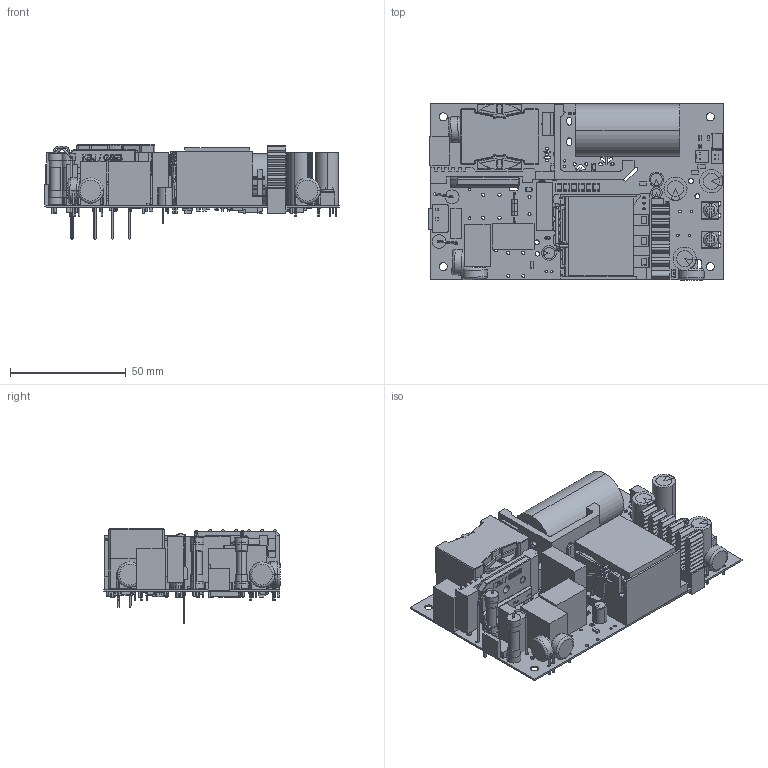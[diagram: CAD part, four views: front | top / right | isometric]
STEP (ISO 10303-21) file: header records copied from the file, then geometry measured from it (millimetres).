
FILE_DESCRIPTION(('Creo Elements/Direct Modeling STEP Export'),'2;1');
FILE_NAME('LOP-400.stp','2023-11-29T 9:32:35',(''),(''),'PTC Creo Elements/Direct Modeling STEP processor for AP214 (Solid Model)','PTC Creo Elements/Direct Modeling 19.0E 27-Jun-2016 (C) Parametric Technology GmbH','');
FILE_SCHEMA(('AUTOMOTIVE_DESIGN { 1 0 10303 214 1 1 1 1 }'));
Length unit declared in the file: millimetre
Products named in the file (538): 0_7CP___PRT_1_PRT_PRT_PR-107990.PRT; 0_7CP___PRT_1_PRT_PRT_PR-108320.ASM; 0_7CP___PRT_1_PRT_PRT_PR-106650.PRT; 0_7CP___PRT_1_PRT_PRT_PR-106980.ASM; 0_7CP___PRT_5_1_PRT_PRT_-105310.PRT; 0_7CP___PRT_5_1_PRT_PRT_-105640.ASM; 0_7CP___PRT_5_1_PRT_PRT_-103970.PRT; 0_7CP___PRT_5_1_PRT_PRT_-104300.ASM; 0_7CP___PRT_6_1_PRT_PRT_-102630.PRT; 0_7CP___PRT_6_1_PRT_PRT_-102960.ASM; 0_7CP___PRT_6_1_PRT_PRT_-101290.PRT; 0_7CP___PRT_6_1_PRT_PRT_-101620.ASM; 0_7CP___PRT_7_1_PRT_PRT_--99950.PRT; 0_7CP___PRT_7_1_PRT_PRT_-100280.ASM; 0_7CP___PRT_7_1_PRT_PRT_P-98610.PRT; 0_7CP___PRT_7_1_PRT_PRT_P-98940.ASM; 0_7CP___PRT_9_1_PRT_PRT_--97270.PRT; 0_7CP___PRT_9_1_PRT_PRT_--97600.ASM; 0_7CP___PRT_9_1_PRT_PRT_--95930.PRT; 0_7CP___PRT_9_1_PRT_PRT_--96260.ASM; 0_7CP___PRT_9_1_PRT_PRT_--94590.PRT; 0_7CP___PRT_9_1_PRT_PRT_--94920.ASM; 0_7CP___PRT_9_1_PRT_PRT_P-93250.PRT; 0_7CP___PRT_9_1_PRT_PRT_P-93580.ASM; PQ342824-M_PRT_1_PRT_PRT--91910.PRT; PQ342824-M_PRT_1_PRT_PRT--92240.ASM; PQ342824_CORE_PRT_PRT_PR--22490.PRT; PQ342824_CORE_PRT_PRT_PR--23100.ASM; PQ342824_CORE_PRT_PRT_PR--22820.ASM; VRY-3428-20230627_STP_ASM_ASM.ASM; VRY-3428-20230714_STP_ASM.ASM; VRY-3428-20230714_STP.ASM; ___.stp; SZ915-R1X.1; _X2_96F64EF6_X0_4_1.PRT; _X2_96F64EF6_X0_4.PRT; _X2_96F64EF6_X0_3.PRT; _X2_96F64EF6_X0_2-18530.ASM; _X2_96F64EF6_X0_2-50000.PRT; _X2_96F64EF6_X0_2-50330.ASM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
Assembly tree (570 placements, depth 7):
  ___.stp
    VRY-3428-20230714_STP.ASM
      VRY-3428-20230714_STP_ASM.ASM
        VRY-3428-20230627_STP_ASM_ASM.ASM
          PQ342824_CORE_PRT_PRT_PR--22820.ASM
            PQ342824_CORE_PRT_PRT_PR--22490.PRT
          PQ342824_CORE_PRT_PRT_PR--23100.ASM
            PQ342824_CORE_PRT_PRT_PR--22490.PRT
          PQ342824-M_PRT_1_PRT_PRT--92240.ASM
            PQ342824-M_PRT_1_PRT_PRT--91910.PRT
          0_7CP___PRT_9_1_PRT_PRT_P-93580.ASM
            0_7CP___PRT_9_1_PRT_PRT_P-93250.PRT
          0_7CP___PRT_9_1_PRT_PRT_--94920.ASM
            0_7CP___PRT_9_1_PRT_PRT_--94590.PRT
          0_7CP___PRT_9_1_PRT_PRT_--96260.ASM
            0_7CP___PRT_9_1_PRT_PRT_--95930.PRT
          0_7CP___PRT_9_1_PRT_PRT_--97600.ASM
            0_7CP___PRT_9_1_PRT_PRT_--97270.PRT
          0_7CP___PRT_7_1_PRT_PRT_P-98940.ASM
            0_7CP___PRT_7_1_PRT_PRT_P-98610.PRT
          0_7CP___PRT_7_1_PRT_PRT_-100280.ASM
            0_7CP___PRT_7_1_PRT_PRT_--99950.PRT
          0_7CP___PRT_6_1_PRT_PRT_-101620.ASM
            0_7CP___PRT_6_1_PRT_PRT_-101290.PRT
          0_7CP___PRT_6_1_PRT_PRT_-102960.ASM
            0_7CP___PRT_6_1_PRT_PRT_-102630.PRT
          0_7CP___PRT_5_1_PRT_PRT_-104300.ASM
            0_7CP___PRT_5_1_PRT_PRT_-103970.PRT
          0_7CP___PRT_5_1_PRT_PRT_-105640.ASM
            0_7CP___PRT_5_1_PRT_PRT_-105310.PRT
          0_7CP___PRT_1_PRT_PRT_PR-106980.ASM
            0_7CP___PRT_1_PRT_PRT_PR-106650.PRT
          0_7CP___PRT_1_PRT_PRT_PR-108320.ASM
            0_7CP___PRT_1_PRT_PRT_PR-107990.PRT
  SZ915-R1X.1
    SZ915-R1X.1
  LOP-400.stp
    1AR-_3362W_2_PRT-2037080.ASM
      1AR-_3362W_2_PRT-2036750.PRT
    1AR-_3362W_3_PRT-2035330.ASM
      1AR-_3362W_3_PRT-2035000.PRT
    1AR-_3362W_4_PRT-2033580.ASM
      1AR-_3362W_4_PRT-2033250.PRT
    1AR-_3362W_5_PRT-2031830.ASM
      1AR-_3362W_5_PRT-2031410.PRT
    1AR-_3362W_6_PRT-1953370.ASM
      1AR-_3362W_6_PRT-1953000.PRT
    1AR-_3362W_7_PRT-1951710.ASM
      1AR-_3362W_7_PRT-1951340.PRT
    1AR-_3362W_8_PRT-1950050.ASM
      1AR-_3362W_8_PRT-1949680.PRT
    1BC1-Y-L140W040-P100_PR-1948390.ASM
      1BC1-Y-L140W040-P100_PR-1947020.PRT
    1BC1-Y-L140W040-P100_PR-1948110.ASM
      1BC1-Y-L140W040-P100_PR-1947020.PRT
    1BC1-Y-L140W040-P100_PR-1947830.ASM
      1BC1-Y-L140W040-P100_PR-1947020.PRT
    1BC1-Y-L140W040-P100_PR-1947550.ASM
      1BC1-Y-L140W040-P100_PR-1947020.PRT
    2CDX-SOD323_PRT-1940050.ASM
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Bounding box: 127.65 x 76.4 x 41.26 mm (x, y, z)
Volume: 106042.3 mm3; surface area: 94390.6 mm2
Topology: 277 solids, 278 shells, 6844 faces, 17647 edges, 11204 vertices
Faces by surface type: plane 3721, cylinder 1736, extrusion 721, sphere 444, torus 174, cone 34, bspline 14
Entity records: 225514 total; most frequent: CARTESIAN_POINT 61521, ORIENTED_EDGE 26004, DIRECTION 23496, EDGE_CURVE 13002, VECTOR 9594, LINE 8873, VERTEX_POINT 8511, AXIS2_PLACEMENT_3D 6951
